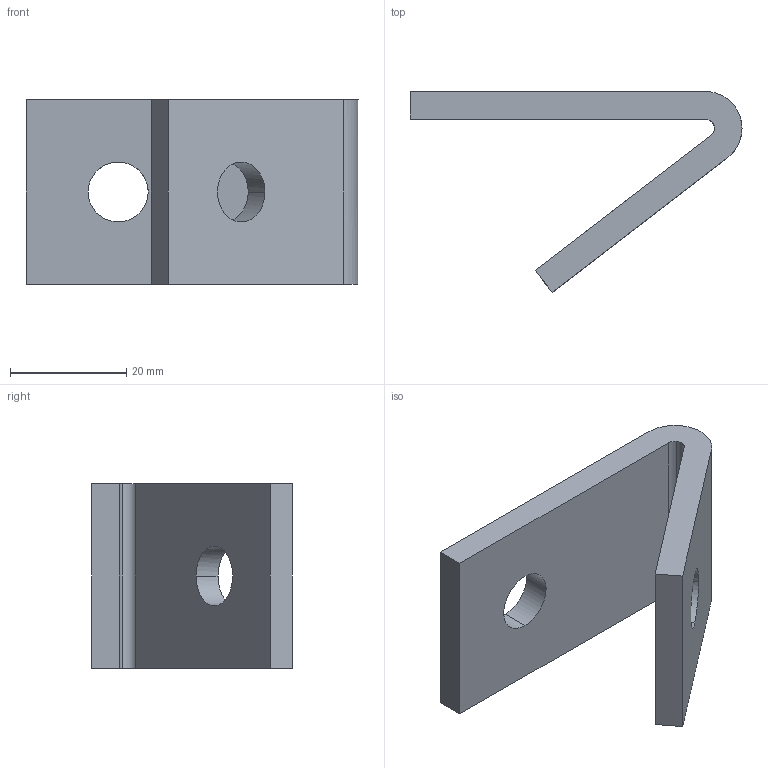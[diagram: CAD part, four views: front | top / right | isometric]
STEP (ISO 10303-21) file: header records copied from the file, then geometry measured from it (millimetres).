
FILE_DESCRIPTION(('TurboCAD Mac Pro'),'Build 980');
FILE_NAME('A2111.stp',' ',(''),(''),'ACIS Interop','IMSI','TurboCAD Mac Pro BY IMSI, INCORPORATED');
FILE_SCHEMA(('automotive_design'));
Length unit declared in the file: inch
Products named in the file (1): 1
Bounding box: 57.18 x 34.58 x 31.75 mm (x, y, z)
Volume: 14143.5 mm3; surface area: 7491.9 mm2
Topology: 1 solids, 1 shells, 20 faces, 54 edges, 36 vertices
Faces by surface type: bspline 12, plane 8
Entity records: 1096 total; most frequent: CARTESIAN_POINT 328, ORIENTED_EDGE 108, EDGE_CURVE 54, STYLED_ITEM 51, PRESENTATION_STYLE_ASSIGNMENT 51, COLOUR_RGB 51, DIRECTION 50, VERTEX_POINT 36
